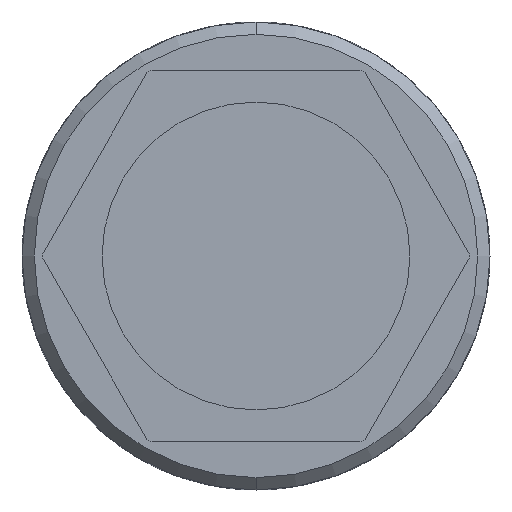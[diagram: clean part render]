
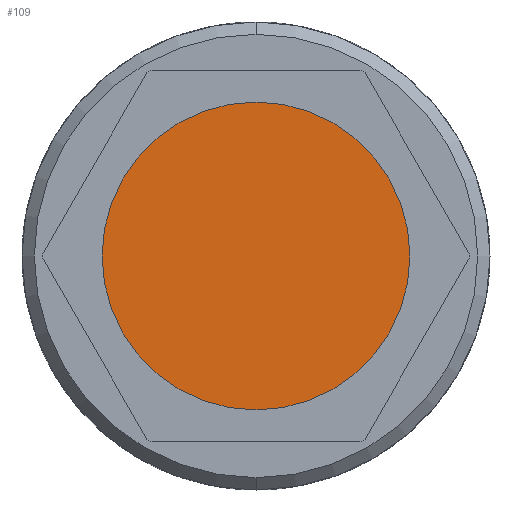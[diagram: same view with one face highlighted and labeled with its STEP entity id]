
A CAD part, left-side view. The second image highlights one B-rep face of the part: STEP entity #109.
In plain terms, the highlighted planar face has unit normal (-1, 0, 0).
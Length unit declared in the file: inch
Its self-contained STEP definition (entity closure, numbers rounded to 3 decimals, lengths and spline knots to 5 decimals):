
#109 = ADVANCED_FACE ( 'NONE', ( #352 ), #720, .T. ) ;
#352 = FACE_OUTER_BOUND ( 'NONE', #1869, .T. ) ;
#462 = CIRCLE ( 'NONE', #921, 0.625 ) ;
#465 = CIRCLE ( 'NONE', #924, 0.625 ) ;
#720 = PLANE ( 'NONE',  #766 ) ;
#729 = CARTESIAN_POINT ( 'NONE',  ( -1.989, 1.53336, 0. ) ) ;
#730 = DIRECTION ( 'NONE',  ( -1., 0., 0. ) ) ;
#731 = DIRECTION ( 'NONE',  ( 0., 0., 1. ) ) ;
#766 = AXIS2_PLACEMENT_3D ( 'NONE', #729, #730, #731 ) ;
#921 = AXIS2_PLACEMENT_3D ( 'NONE', #2059, #2060, #2061 ) ;
#924 = AXIS2_PLACEMENT_3D ( 'NONE', #2071, #2072, #2073 ) ;
#1480 = CARTESIAN_POINT ( 'NONE',  ( -1.989, 0.90836, -0.625 ) ) ;
#1482 = CARTESIAN_POINT ( 'NONE',  ( -1.989, 0.90836, 0.625 ) ) ;
#1694 = EDGE_CURVE ( 'NONE', #2273, #2275, #462, .T. ) ;
#1697 = EDGE_CURVE ( 'NONE', #2275, #2273, #465, .T. ) ;
#1869 = EDGE_LOOP ( 'NONE', ( #1871, #1870 ) ) ;
#1870 = ORIENTED_EDGE ( 'NONE', *, *, #1697, .F. ) ;
#1871 = ORIENTED_EDGE ( 'NONE', *, *, #1694, .F. ) ;
#2059 = CARTESIAN_POINT ( 'NONE',  ( -1.989, 0.90836, 0. ) ) ;
#2060 = DIRECTION ( 'NONE',  ( 1., 0., 0. ) ) ;
#2061 = DIRECTION ( 'NONE',  ( 0., 0., -1. ) ) ;
#2071 = CARTESIAN_POINT ( 'NONE',  ( -1.989, 0.90836, 0. ) ) ;
#2072 = DIRECTION ( 'NONE',  ( 1., 0., 0. ) ) ;
#2073 = DIRECTION ( 'NONE',  ( 0., 0., -1. ) ) ;
#2273 = VERTEX_POINT ( 'NONE', #1480 ) ;
#2275 = VERTEX_POINT ( 'NONE', #1482 ) ;
